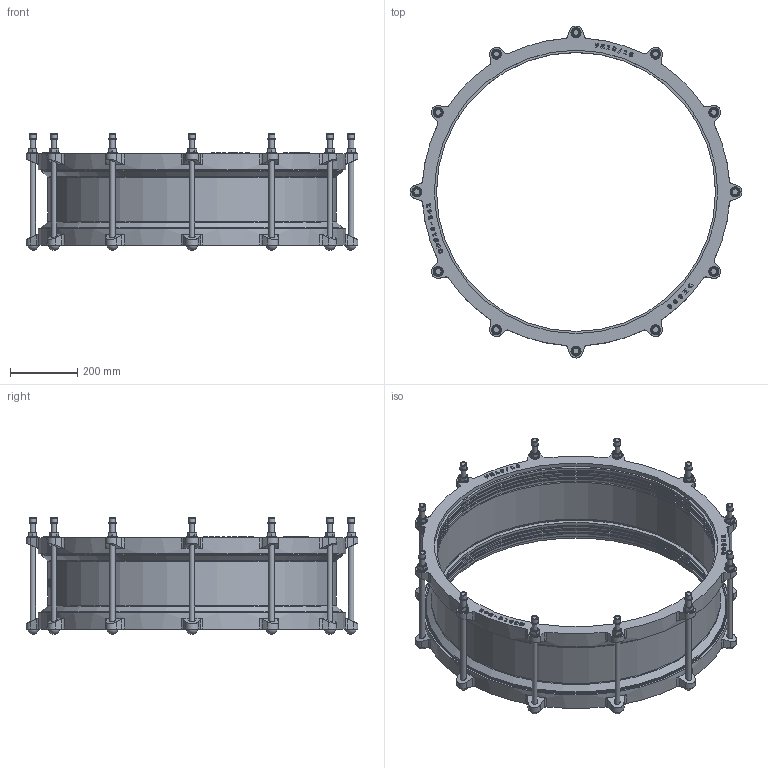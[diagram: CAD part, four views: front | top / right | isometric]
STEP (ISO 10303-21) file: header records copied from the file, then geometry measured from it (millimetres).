
FILE_DESCRIPTION(('STEP AP203'), '1');
FILE_NAME('Cîåäèíèòåëüíàÿ ìóôòà äëÿ æåñòêèõ òðóá', '', ('UNSPECIFIED'), ('UNSPECIFIED'), 'C3D Converter', 'C3D Toolkit', '');
FILE_SCHEMA(('CONFIG_CONTROL_DESIGN'));
Length unit declared in the file: millimetre
Assembly tree (53 placements, depth 2):
  (unnamed)
    (unnamed)
    (unnamed)  x12
    (unnamed)  x12
    (unnamed)  x12
    (unnamed)  x12
    (unnamed)
    (unnamed)
    (unnamed)  x2
Bounding box: 986 x 986 x 347.6 mm (x, y, z)
Volume: 17208726.4 mm3; surface area: 3418635.5 mm2
Topology: 57 solids, 57 shells, 1184 faces, 2901 edges, 1910 vertices
Faces by surface type: plane 445, extrusion 388, cylinder 219, cone 90, torus 30, sphere 12
Full cylindrical faces by diameter (mm): 16 x36, 17 x12, 18 x24, 19.2 x12, 22.4 x12, 25.619 x1, 30 x12, 829 x8, 835.5 x6, 842 x3, 850 x2, 858 x3, 894 x2, 898 x4, 914 x2
Entity records: 42086 total; most frequent: CARTESIAN_POINT 16891, ORIENTED_EDGE 4338, DIRECTION 2849, EDGE_CURVE 2169, VERTEX_POINT 1492, VECTOR 1337, B_SPLINE_CURVE_WITH_KNOTS 1322, EDGE_LOOP 1037
